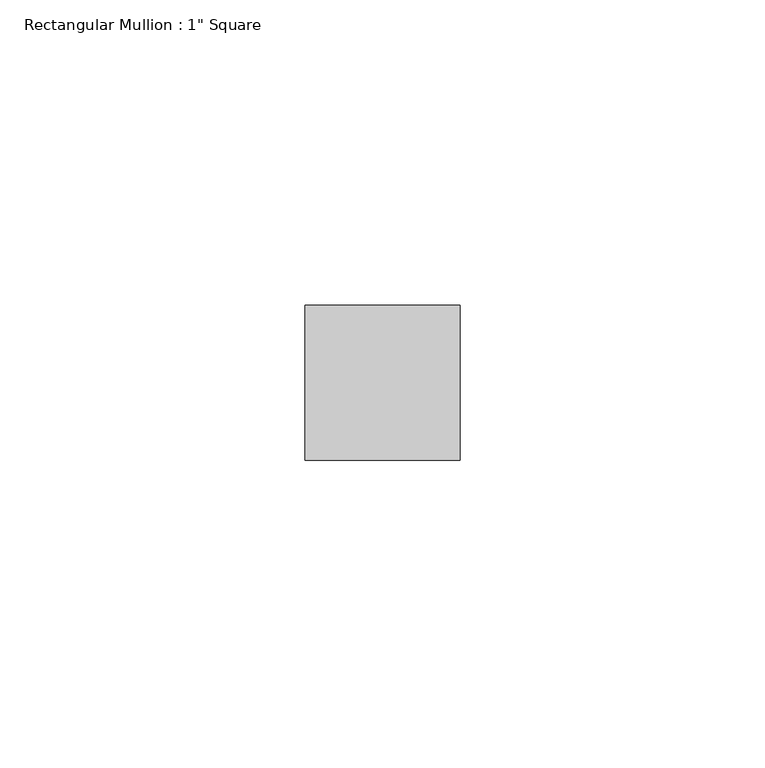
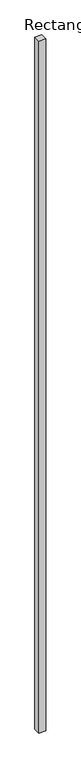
"""IFC4 building model written with IfcOpenShell, lengths in millimetres: member geometry."""

from ifc_helpers import new_model, si_unit, frame, origin, place, context, project, spatial, polyline, outline, extrude, source, transform, mapped, element, save


def member_8766197f(model_context):
    return source(origin(), model_context, "Body", "SweptSolid", [
        extrude(outline(polyline([(12.7, 12.7), (12.7, -12.7), (-12.7, -12.7), (-12.7, 12.7), (12.7, 12.7)])), frame((0.0, 0.0, -2692.6997833), z_axis=(0.0, 0.0, 1.0), x_axis=(1.0, 0.0, 0.0)), (0.0, 0.0, 1.0), 2692.6997833),
    ])


if __name__ == "__main__":
    model = new_model("IFC4")
    model_context = context("Model", 3, world=origin())
    ifc_project = project(units=[si_unit("LENGTHUNIT", "METRE", prefix="MILLI")], contexts=[model_context])
    site = spatial("IfcSite", under=ifc_project)
    building = spatial("IfcBuilding", under=site)
    placement = place(None, origin())
    member_shape = member_8766197f(model_context)
    element("IfcMember", 1, ObjectType="Rectangular Mullion : 1\" Square", at=placement, inside=building, context=model_context, shape_type="MappedRepresentation", body=[
        mapped(member_shape, transform((0.0, 0.0, 0.0), x_axis=(1.0, 0.0, 0.0), y_axis=(0.0, 1.0, 0.0), z_axis=(0.0, 0.0, 1.0))),
    ])
    save(model, "model.ifc")
